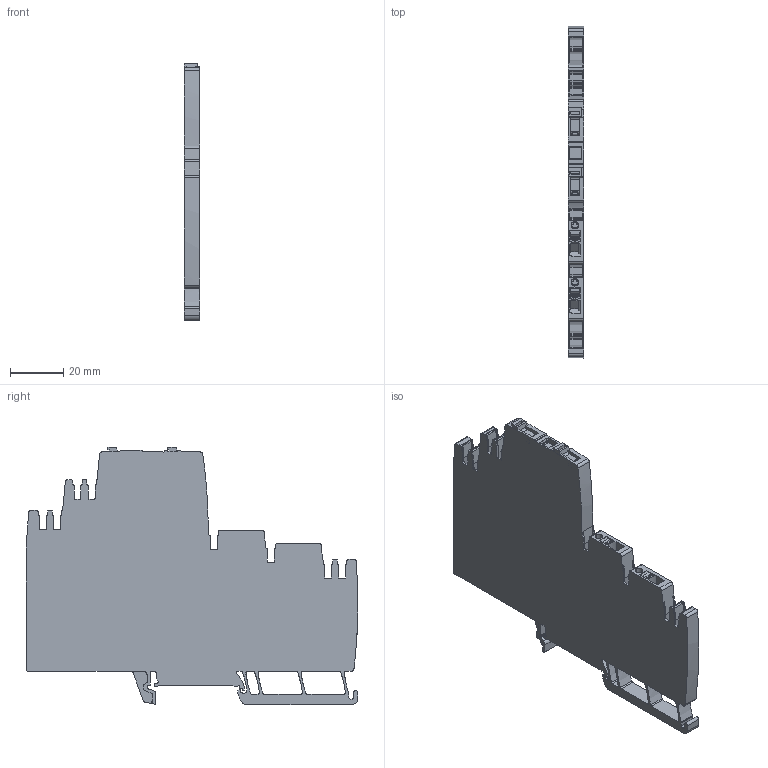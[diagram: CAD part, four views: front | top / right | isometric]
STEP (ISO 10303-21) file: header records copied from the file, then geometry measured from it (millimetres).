
FILE_DESCRIPTION(('CATIA V5R24 STEP','CAx-IF Rec.Pracs.--- Model Styling and Organization---1.2---2011-12-15'),'2;1');
FILE_NAME('\\SRVDE107\Germany\WMC\1_WMC_Input\Step_BU_PA\2123050000.stp','2017-09-05T11:16:25+00:00',('Weidmueller Interface'),('WI'),'CATIA Version 5-6 Release 2014 SP4','CATIA V5 STEP AP214','none');
FILE_SCHEMA(('AUTOMOTIVE_DESIGN { 1 0 10303 214 1 1 1 1 }'));
Length unit declared in the file: millimetre
Products named in the file (1): 2123050000
Bounding box: 6 x 125.07 x 96.85 mm (x, y, z)
Volume: 46536.6 mm3; surface area: 24823.3 mm2
Topology: 7 solids, 7 shells, 1009 faces, 3144 edges, 2166 vertices
Faces by surface type: plane 527, cylinder 459, extrusion 22, torus 1
Entity records: 35804 total; most frequent: CARTESIAN_POINT 7454, ORIENTED_EDGE 6288, DIRECTION 4692, EDGE_CURVE 3144, VERTEX_POINT 2166, VECTOR 2079, LINE 2057, AXIS2_PLACEMENT_3D 1778
